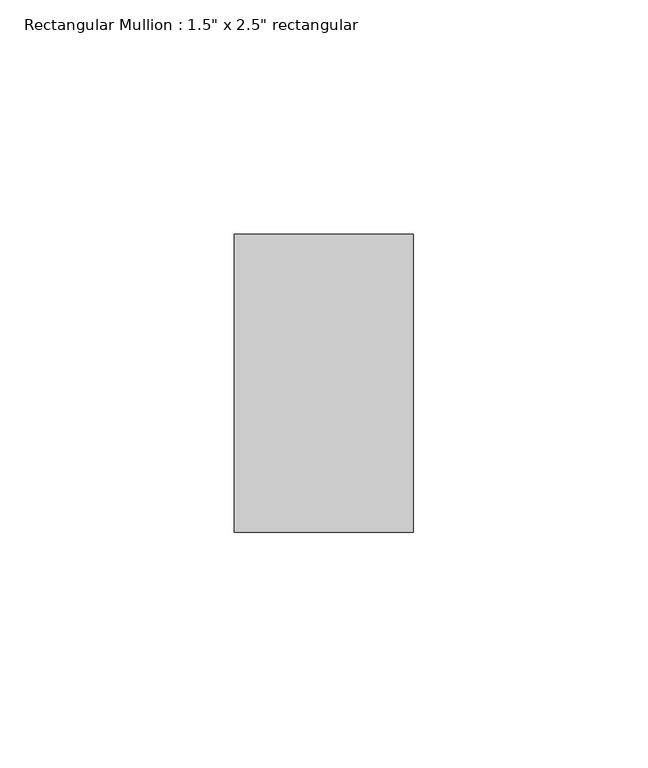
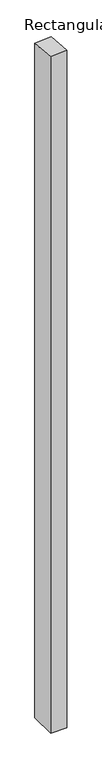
"""IFC4 building model written with IfcOpenShell, lengths in millimetres: member geometry."""

from ifc_helpers import new_model, si_unit, origin, place, context, project, spatial, faceted_brep, source, transform, mapped, element, save


def member_dc7dd58b(model_context):
    return source(origin(), model_context, "Body", "Brep", [
        faceted_brep([(0.0, 31.75, -1672.5645874), (0.0, -31.75, -1672.5645874), (-38.1, -31.75, -1672.5645874), (-38.1, 31.75, -1672.5645874), (-38.1, 31.75, -5.0937049), (0.0, 31.75, -2.3220275), (-38.1, -31.75, -0.4496499), (0.0, -31.75, 2.3220275)], [[[0, 1, 2, 3]], [[4, 5, 0, 3]], [[6, 4, 3, 2]], [[7, 6, 2, 1]], [[5, 7, 1, 0]], [[5, 4, 6, 7]]]),
    ])


if __name__ == "__main__":
    model = new_model("IFC4")
    model_context = context("Model", 3, world=origin())
    ifc_project = project(units=[si_unit("LENGTHUNIT", "METRE", prefix="MILLI")], contexts=[model_context])
    site = spatial("IfcSite", under=ifc_project)
    building = spatial("IfcBuilding", under=site)
    placement = place(None, origin())
    member_shape = member_dc7dd58b(model_context)
    element("IfcMember", 1, ObjectType="Rectangular Mullion : 1.5\" x 2.5\" rectangular", at=placement, inside=building, context=model_context, shape_type="MappedRepresentation", body=[
        mapped(member_shape, transform((0.0, 0.0, 0.0), x_axis=(1.0, 0.0, 0.0), y_axis=(0.0, 1.0, 0.0), z_axis=(0.0, 0.0, 1.0))),
    ])
    save(model, "model.ifc")
